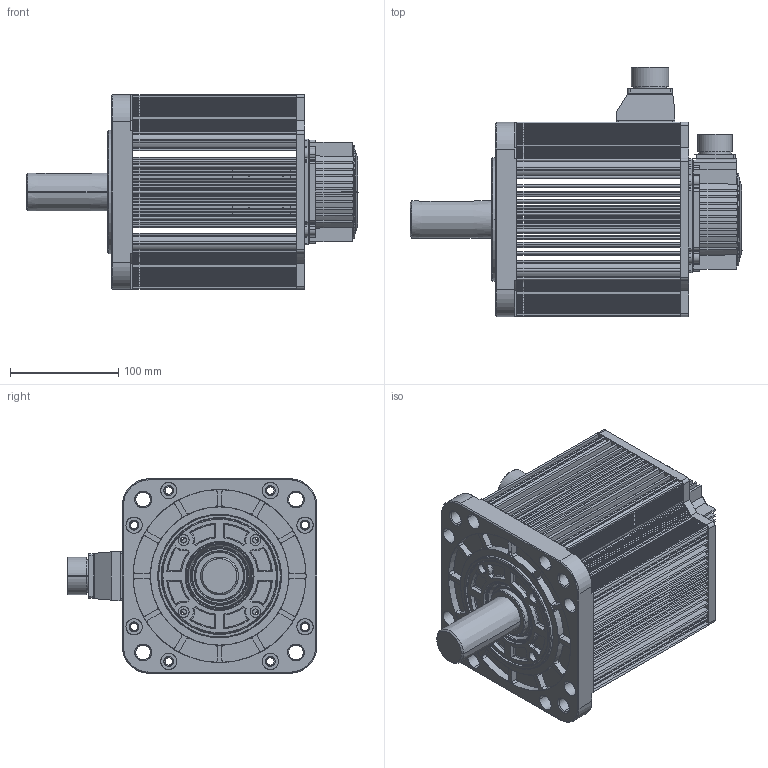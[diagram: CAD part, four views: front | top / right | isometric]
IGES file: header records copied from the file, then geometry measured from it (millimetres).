
Start section: SolidWorks IGES file using analytic representation for surfaces
Global section: file name: E:\est2012\d\17年任务\2017.01.04 外海需求电机3D图升级归档\EMG-30AFA22\EMG-30(APA22,ASA22,AFA22)without holding brake.IGS,15HSolidWorks; native system: 2015; preprocessor: SolidWorks 2015; author: hongyunting; date: 170106.142043; units: millimetre
Bounding box: 307.2 x 231 x 180 mm (x, y, z)
Surface area: 357011.1 mm2 (no closed solid volume)
Topology: 0 solids, 0 shells, 1592 faces, 18300 edges, 18300 vertices
Faces by surface type: revolution 828, bspline 764
